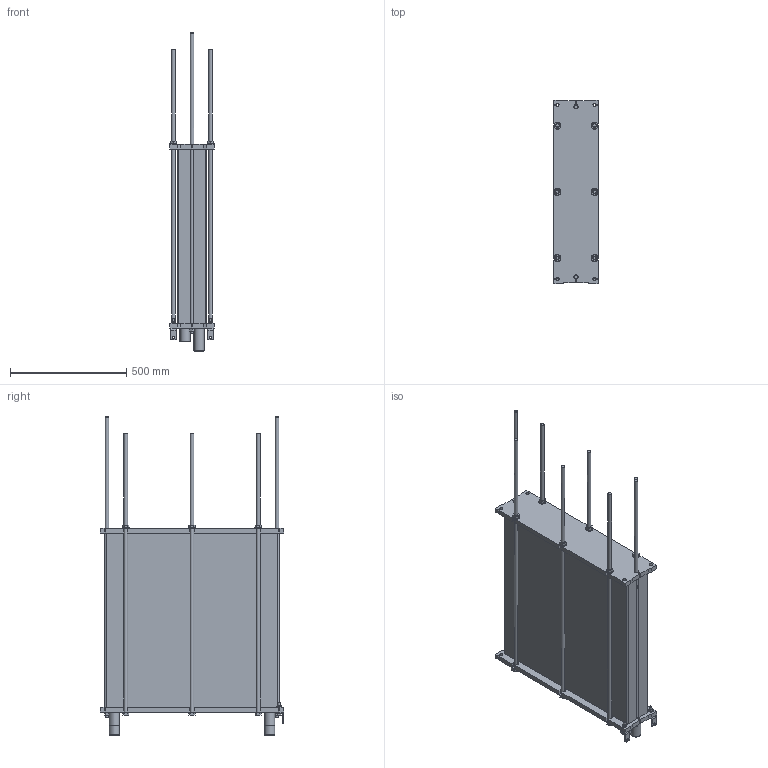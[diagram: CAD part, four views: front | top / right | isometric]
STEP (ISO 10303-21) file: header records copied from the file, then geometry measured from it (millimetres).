
FILE_DESCRIPTION((''),'2;1');
FILE_NAME('C:\temp\TL3_FG_LC1250_01_Rev0.stp','2009-09-07T16:05:03',('CNSHFLU'),(''),'Autodesk Inventor 2008','Autodesk Inventor 2008','');
FILE_SCHEMA(('AUTOMOTIVE_DESIGN { 1 2 10303 214 0 1 1 1 }'));
Length unit declared in the file: millimetre
Products named in the file (1): TL3
Bounding box: 190 x 790 x 1369 mm (x, y, z)
Volume: 75698173.6 mm3; surface area: 2642205.3 mm2
Topology: 1 solids, 1 shells, 793 faces, 2161 edges, 1424 vertices
Faces by surface type: plane 559, cylinder 220, cone 14
Full cylindrical faces by diameter (mm): 2.646 x4, 10 x4, 11 x4, 12 x2, 16 x14, 20 x4, 24 x2, 30 x16, 40 x4, 44 x4
Entity records: 24479 total; most frequent: CARTESIAN_POINT 4243, DIRECTION 4127, ORIENTED_EDGE 4114, EDGE_CURVE 2057, VECTOR 1575, LINE 1575, VERTEX_POINT 1392, AXIS2_PLACEMENT_3D 1276
